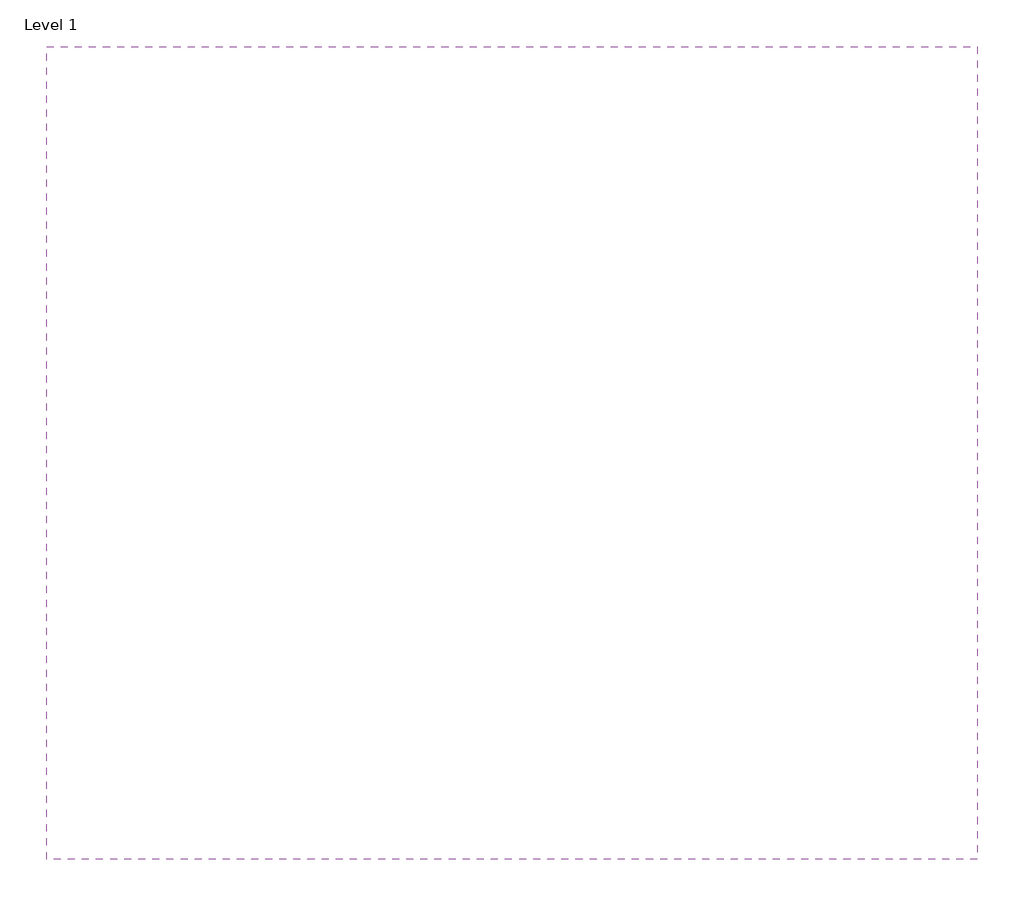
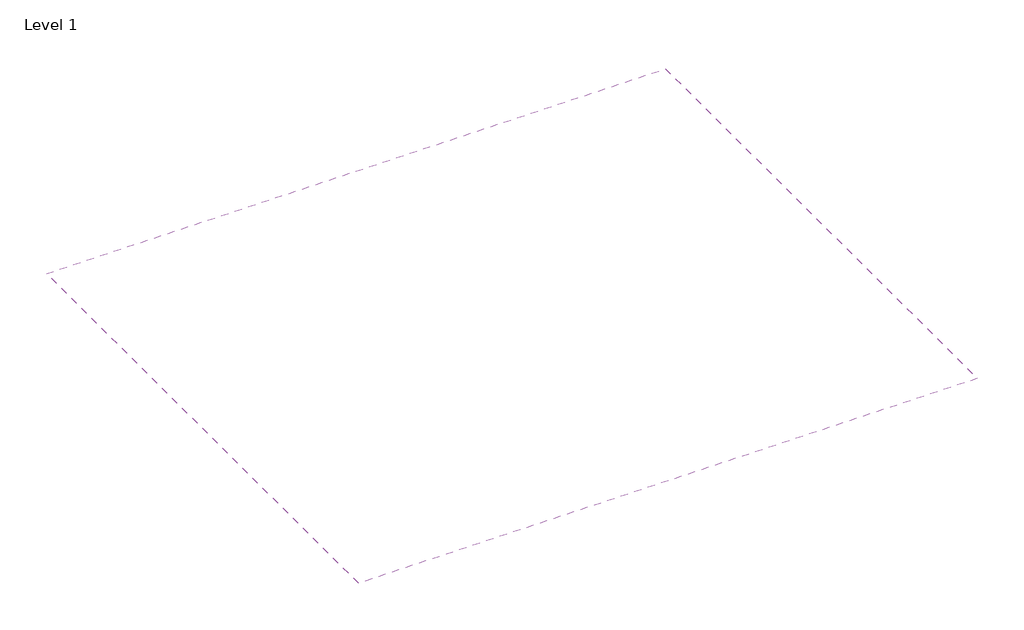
# One storey, incomplete: 1 covering.
"""IFC4 building model written with IfcOpenShell, lengths in millimetres."""

from ifc_helpers import new_model, si_unit, frame, origin, place, context, project, spatial, polyline, outline, extrude, element, save

model = new_model("IFC4")

# Units and contexts
model_context = context("Model", 3, world=origin())
ifc_project = project(units=[si_unit("LENGTHUNIT", "METRE", prefix="MILLI")], contexts=[model_context])

# Site, building, storey
site = spatial("IfcSite", under=ifc_project)
building = spatial("IfcBuilding", under=site)
storey = spatial("IfcBuildingStorey", under=building, Name="Level 1", Elevation=0.0)

# Covering
placement = place(None, origin())
element("IfcCovering", 1, ObjectType="Plain", at=placement, inside=storey, context=model_context, shape_type="SweptSolid", body=[
    extrude(outline(polyline([(-2829.1447554, 3100.8443287), (-1329.1447554, 3100.8443287), (-1329.1447554, 1790.8443287), (-2829.1447554, 1790.8443287), (-2829.1447554, 3100.8443287)]), holes=[polyline([(-2716.5497951, 2524.3712425), (-1497.3497951, 2524.3712425), (-1497.3497951, 2625.3712425), (-2716.5497951, 2625.3712425), (-2716.5497951, 2524.3712425)])]), frame((0.0, 0.0, 2600.0), z_axis=(0.0, 0.0, 1.0), x_axis=(1.0, 0.0, 0.0)), (0.0, 0.0, 1.0), 57.0),
])

save(model, "model.ifc")
